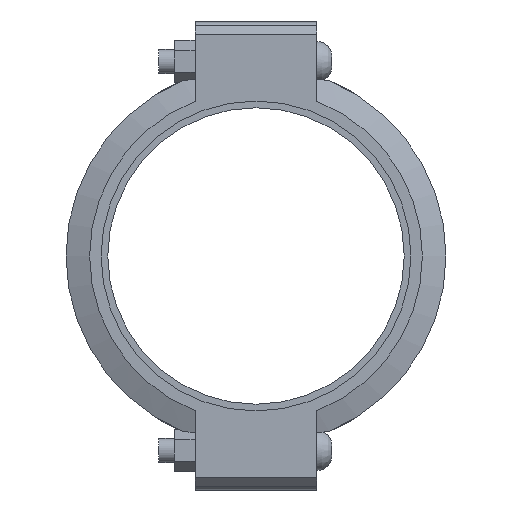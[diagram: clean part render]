
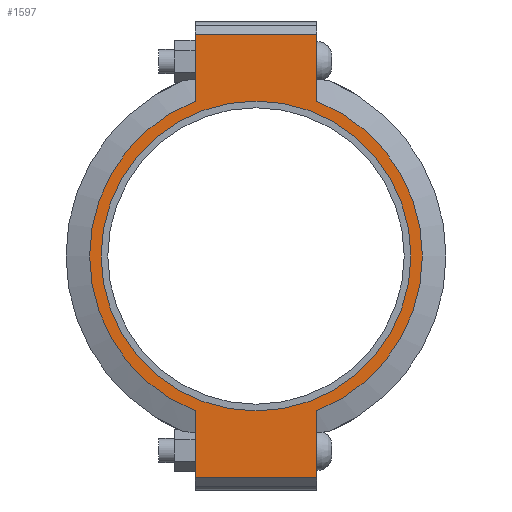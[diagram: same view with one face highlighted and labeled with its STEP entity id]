
A CAD part, left-side view. The second image highlights one B-rep face of the part: STEP entity #1597.
In plain terms, the highlighted planar face has unit normal (-1, 0, 0) as drawn and (0, 0, 1) by its records, which use the part's own axes.
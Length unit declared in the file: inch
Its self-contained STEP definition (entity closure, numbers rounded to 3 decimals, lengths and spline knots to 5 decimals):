
#168=LINE('',#2759,#257);
#179=LINE('',#2810,#268);
#185=LINE('',#2836,#274);
#187=LINE('',#2839,#276);
#188=LINE('',#2844,#277);
#189=LINE('',#2845,#278);
#257=VECTOR('',#2251,0.3937);
#268=VECTOR('',#2282,0.3937);
#274=VECTOR('',#2300,0.3937);
#276=VECTOR('',#2304,0.3937);
#277=VECTOR('',#2309,0.3937);
#278=VECTOR('',#2310,0.3937);
#340=FACE_BOUND('',#517,.T.);
#408=FACE_OUTER_BOUND('',#516,.T.);
#516=EDGE_LOOP('',(#1292,#1293,#1294,#1295,#1296,#1297,#1298,#1299));
#517=EDGE_LOOP('',(#1300));
#599=CIRCLE('',#1825,6.375);
#623=CIRCLE('',#1877,6.84375);
#624=CIRCLE('',#1878,6.84375);
#695=VERTEX_POINT('',#2585);
#736=VERTEX_POINT('',#2756);
#737=VERTEX_POINT('',#2758);
#754=VERTEX_POINT('',#2805);
#755=VERTEX_POINT('',#2809);
#762=VERTEX_POINT('',#2831);
#763=VERTEX_POINT('',#2835);
#764=VERTEX_POINT('',#2841);
#765=VERTEX_POINT('',#2843);
#859=EDGE_CURVE('',#695,#695,#599,.T.);
#916=EDGE_CURVE('',#737,#736,#168,.T.);
#937=EDGE_CURVE('',#755,#754,#179,.T.);
#948=EDGE_CURVE('',#763,#762,#185,.T.);
#950=EDGE_CURVE('',#763,#736,#187,.T.);
#951=EDGE_CURVE('',#762,#764,#623,.T.);
#952=EDGE_CURVE('',#764,#765,#188,.T.);
#953=EDGE_CURVE('',#755,#765,#189,.T.);
#954=EDGE_CURVE('',#754,#737,#624,.T.);
#1292=ORIENTED_EDGE('',*,*,#950,.F.);
#1293=ORIENTED_EDGE('',*,*,#948,.T.);
#1294=ORIENTED_EDGE('',*,*,#951,.T.);
#1295=ORIENTED_EDGE('',*,*,#952,.T.);
#1296=ORIENTED_EDGE('',*,*,#953,.F.);
#1297=ORIENTED_EDGE('',*,*,#937,.T.);
#1298=ORIENTED_EDGE('',*,*,#954,.T.);
#1299=ORIENTED_EDGE('',*,*,#916,.T.);
#1300=ORIENTED_EDGE('',*,*,#859,.T.);
#1437=PLANE('',#1876);
#1597=ADVANCED_FACE('',(#408,#340),#1437,.T.);
#1825=AXIS2_PLACEMENT_3D('',#2587,#2141,#2142);
#1876=AXIS2_PLACEMENT_3D('',#2840,#2305,#2306);
#1877=AXIS2_PLACEMENT_3D('',#2842,#2307,#2308);
#1878=AXIS2_PLACEMENT_3D('',#2846,#2311,#2312);
#2141=DIRECTION('center_axis',(0.,0.,-1.));
#2142=DIRECTION('ref_axis',(-1.,0.,0.));
#2251=DIRECTION('',(-1.,0.,0.));
#2282=DIRECTION('',(-1.,0.,0.));
#2300=DIRECTION('',(1.,0.,0.));
#2304=DIRECTION('',(0.,1.,0.));
#2305=DIRECTION('center_axis',(0.,0.,1.));
#2306=DIRECTION('ref_axis',(1.,0.,0.));
#2307=DIRECTION('center_axis',(0.,0.,1.));
#2308=DIRECTION('ref_axis',(-1.,0.,0.));
#2309=DIRECTION('',(1.,0.,0.));
#2310=DIRECTION('',(0.,-1.,0.));
#2311=DIRECTION('center_axis',(0.,0.,1.));
#2312=DIRECTION('ref_axis',(-1.,0.,0.));
#2585=CARTESIAN_POINT('',(6.375,0.,1.315));
#2587=CARTESIAN_POINT('Origin',(0.,0.,1.315));
#2756=CARTESIAN_POINT('',(-9.125,2.5,1.315));
#2758=CARTESIAN_POINT('',(-6.37079,2.5,1.315));
#2759=CARTESIAN_POINT('',(9.625,2.5,1.315));
#2805=CARTESIAN_POINT('',(6.37079,2.5,1.315));
#2809=CARTESIAN_POINT('',(9.125,2.5,1.315));
#2810=CARTESIAN_POINT('',(9.625,2.5,1.315));
#2831=CARTESIAN_POINT('',(-6.37079,-2.5,1.315));
#2835=CARTESIAN_POINT('',(-9.125,-2.5,1.315));
#2836=CARTESIAN_POINT('',(-9.625,-2.5,1.315));
#2839=CARTESIAN_POINT('',(-9.125,1.25,1.315));
#2840=CARTESIAN_POINT('Origin',(0.,0.,
1.315));
#2841=CARTESIAN_POINT('',(6.37079,-2.5,1.315));
#2842=CARTESIAN_POINT('Origin',(0.,0.,1.315));
#2843=CARTESIAN_POINT('',(9.125,-2.5,1.315));
#2844=CARTESIAN_POINT('',(-9.625,-2.5,1.315));
#2845=CARTESIAN_POINT('',(9.125,-1.25,1.315));
#2846=CARTESIAN_POINT('Origin',(0.,0.,1.315));
